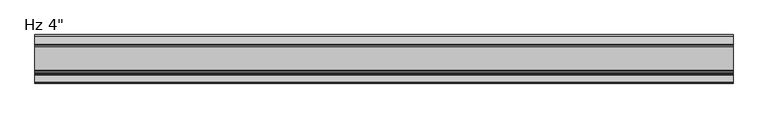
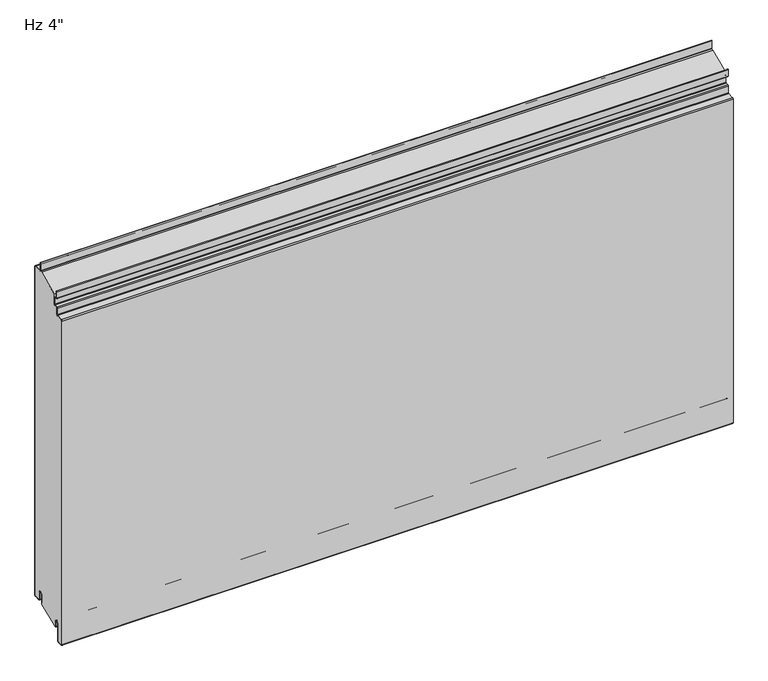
"""IFC4 building model written with IfcOpenShell, lengths in millimetres: plate geometry."""

from ifc_helpers import new_model, si_unit, point, frame, frame_2d, origin, place, context, project, spatial, polyline, circle_curve, ellipse_curve, trimmed, segment, composite_curve, outline, extrude, source, transform, mapped, element, save
from ifc_brep_helpers import plane_surface, cylinder_surface, revolved_surface, extruded_surface, advanced_brep


def plate_a30c68ed(model_context):
    return source(origin(), model_context, "Body", "SolidModel", [
        extrude(outline(composite_curve([segment(trimmed(circle_curve(frame_2d((-21.43125, 19.25)), 4.96875), [point((-16.4625, 19.25))], [point((-26.4, 19.25))], True, "CARTESIAN"), True, "CONTINUOUS"), segment(polyline([(-26.4, 19.25), (-26.4, -2.9323422), (-74.6157227, -22.81875), (-76.2, -22.81875), (-76.2, -13.3080174), (-76.99375, -13.3080174), (-76.7875, -11.7205174)]), True, "CONTINUOUS"), segment(trimmed(circle_curve(frame_2d((-81.75625, -11.7205174)), 4.96875), [point((-76.7875, -11.7205174))], [point((-86.725, -11.7205174))], True, "CARTESIAN"), True, "CONTINUOUS"), segment(polyline([(-86.725, -11.7205174), (-86.725, -49.9038221)]), True, "CONTINUOUS"), segment(trimmed(circle_curve(frame_2d((-88.10625, -49.9038221)), 1.38125), [point((-86.725, -49.9038221))], [point((-88.033961, -51.2831791))], False, "CARTESIAN"), True, "CONTINUOUS"), segment(polyline([(-88.033961, -51.2831791), (-99.146461, -51.8655606)]), True, "CONTINUOUS"), segment(trimmed(circle_curve(frame_2d((-99.21875, -50.4862035)), 1.38125), [point((-99.146461, -51.8655606))], [point((-100.6, -50.4862035))], False, "CARTESIAN"), True, "CONTINUOUS"), segment(polyline([(-100.6, -50.4862035), (-100.6, 694.0447607)]), True, "CONTINUOUS"), segment(trimmed(circle_curve(frame_2d((-99.21875, 694.0447607)), 1.38125), [point((-100.6, 694.0447607))], [point((-99.291039, 695.4241177))], False, "CARTESIAN"), True, "CONTINUOUS"), segment(polyline([(-99.291039, 695.4241177), (-85.5895807, 696.1421807)]), True, "CONTINUOUS"), segment(trimmed(circle_curve(frame_2d((-85.725, 698.7261347)), 2.5875), [point((-85.5895807, 696.1421807))], [point((-83.1375, 698.7261347))], True, "CARTESIAN"), True, "CONTINUOUS"), segment(polyline([(-83.1375, 698.7261347), (-83.1375, 712.8824411)]), True, "CONTINUOUS"), segment(trimmed(circle_curve(frame_2d((-81.75625, 712.8824411)), 1.38125), [point((-83.1375, 712.8824411))], [point((-81.828539, 714.2617981))], False, "CARTESIAN"), True, "CONTINUOUS"), segment(polyline([(-81.828539, 714.2617981), (-76.0645807, 714.5638744)]), True, "CONTINUOUS"), segment(trimmed(circle_curve(frame_2d((-76.2, 717.1478283)), 2.5875), [point((-76.0645807, 714.5638744))], [point((-73.6125, 717.1478283))], True, "CARTESIAN"), True, "CONTINUOUS"), segment(polyline([(-73.6125, 717.1478283), (-73.6125, 739.5892934), (-24.9057308, 760.40625), (-2.38125, 760.40625)]), True, "CONTINUOUS"), segment(trimmed(circle_curve(frame_2d((-2.38125, 759.025)), 1.38125), [point((-2.38125, 760.40625))], [point((-1.0, 759.025))], False, "CARTESIAN"), True, "CONTINUOUS"), segment(polyline([(-1.0, 759.025), (-1.0, 3.375)]), True, "CONTINUOUS"), segment(trimmed(circle_curve(frame_2d((-2.38125, 3.375)), 1.38125), [point((-1.0, 3.375))], [point((-2.38125, 1.99375))], False, "CARTESIAN"), True, "CONTINUOUS"), segment(polyline([(-2.38125, 1.99375), (-15.08125, 1.99375)]), True, "CONTINUOUS"), segment(trimmed(circle_curve(frame_2d((-15.08125, 3.375)), 1.38125), [point((-15.08125, 1.99375))], [point((-16.4625, 3.375))], False, "CARTESIAN"), True, "CONTINUOUS"), segment(polyline([(-16.4625, 3.375), (-16.4625, 19.25)]), True, "CONTINUOUS")], self_intersect=False)), frame((-730.0, 0.0, 0.0), z_axis=(1.0, 0.0, 0.0), x_axis=(0.0, 1.0, 0.0)), (0.0, 0.0, 1.0), 1460.0),
        extrude(outline(composite_curve([segment(polyline([(-25.4, 0.99375), (-26.4, 0.99375), (-26.4, 19.25)]), True, "CONTINUOUS"), segment(trimmed(circle_curve(frame_2d((-21.43125, 19.25)), 4.96875), [point((-26.4, 19.25))], [point((-16.4625, 19.25))], False, "CARTESIAN"), True, "CONTINUOUS"), segment(polyline([(-16.4625, 19.25), (-16.4625, 3.375)]), True, "CONTINUOUS"), segment(trimmed(circle_curve(frame_2d((-15.08125, 3.375)), 1.38125), [point((-16.4625, 3.375))], [point((-15.08125, 1.99375))], True, "CARTESIAN"), True, "CONTINUOUS"), segment(polyline([(-15.08125, 1.99375), (-2.38125, 1.99375)]), True, "CONTINUOUS"), segment(trimmed(circle_curve(frame_2d((-2.38125, 3.375)), 1.38125), [point((-2.38125, 1.99375))], [point((-1.0, 3.375))], True, "CARTESIAN"), True, "CONTINUOUS"), segment(polyline([(-1.0, 3.375), (-1.0, 759.025)]), True, "CONTINUOUS"), segment(trimmed(circle_curve(frame_2d((-2.38125, 759.025)), 1.38125), [point((-1.0, 759.025))], [point((-2.38125, 760.40625))], True, "CARTESIAN"), True, "CONTINUOUS"), segment(polyline([(-2.38125, 760.40625), (-19.446875, 760.40625)]), True, "CONTINUOUS"), segment(trimmed(circle_curve(frame_2d((-19.446875, 762.99375)), 2.5875), [point((-19.446875, 760.40625))], [point((-22.034375, 762.99375))], False, "CARTESIAN"), True, "CONTINUOUS"), segment(polyline([(-22.034375, 762.99375), (-22.034375, 780.45625), (-21.034375, 780.45625), (-21.034375, 762.99375)]), True, "CONTINUOUS"), segment(trimmed(circle_curve(frame_2d((-19.446875, 762.99375)), 1.5875), [point((-21.034375, 762.99375))], [point((-19.446875, 761.40625))], True, "CARTESIAN"), True, "CONTINUOUS"), segment(polyline([(-19.446875, 761.40625), (-2.38125, 761.40625)]), True, "CONTINUOUS"), segment(trimmed(circle_curve(frame_2d((-2.38125, 759.025)), 2.38125), [point((-2.38125, 761.40625))], [point((0.0, 759.025))], False, "CARTESIAN"), True, "CONTINUOUS"), segment(polyline([(0.0, 759.025), (0.0, 3.375)]), True, "CONTINUOUS"), segment(trimmed(circle_curve(frame_2d((-2.38125, 3.375)), 2.38125), [point((0.0, 3.375))], [point((-2.38125, 0.99375))], False, "CARTESIAN"), True, "CONTINUOUS"), segment(polyline([(-2.38125, 0.99375), (-15.08125, 0.99375)]), True, "CONTINUOUS"), segment(trimmed(circle_curve(frame_2d((-15.08125, 3.375)), 2.38125), [point((-15.08125, 0.99375))], [point((-17.4625, 3.375))], False, "CARTESIAN"), True, "CONTINUOUS"), segment(polyline([(-17.4625, 3.375), (-17.4625, 19.25)]), True, "CONTINUOUS"), segment(trimmed(circle_curve(frame_2d((-21.43125, 19.25)), 3.96875), [point((-17.4625, 19.25))], [point((-25.4, 19.25))], True, "CARTESIAN"), True, "CONTINUOUS"), segment(polyline([(-25.4, 19.25), (-25.4, 0.99375)]), True, "CONTINUOUS")], self_intersect=False)), frame((-730.0, 0.0, 0.0), z_axis=(1.0, 0.0, 0.0), x_axis=(0.0, 1.0, 0.0)), (0.0, 0.0, 1.0), 1460.0),
        advanced_brep(
        [(-730.0, -76.2, -23.0314549), (-730.0, -77.7875, -23.0314549), (-730.0, -77.7875, -11.7205174), (-730.0, -85.725, -11.7205174), (-730.0, -85.725, -49.9038221), (-730.0, -87.981625, -52.2818086), (-730.0, -99.094125, -52.8641901), (-730.0, -101.6, -50.4862035), (-730.0, -101.6, 694.0447607), (-730.0, -99.343375, 696.4227473), (-730.0, -85.6419167, 697.1408103), (-730.0, -84.1375, 698.7261347), (-730.0, -84.1375, 712.8824411), (-730.0, -81.880875, 715.2604276), (-730.0, -76.1169167, 715.5625039), (-730.0, -74.6125, 717.1478283), (-730.0, -74.6125, 732.0232326), (-730.0, -76.2, 733.6107326), (-730.0, -80.3671875, 733.6107326), (-730.0, -82.7484375, 735.9919826), (-730.0, -82.7484375, 750.4836032), (-730.0, -80.9546875, 750.4836032), (-730.0, -80.9546875, 740.7544826), (-730.0, -81.7484375, 740.7544826), (-730.0, -81.7484375, 735.9919826), (-730.0, -80.3671875, 734.6107326), (-730.0, -76.2, 734.6107326), (-730.0, -73.6125, 732.0232326), (-730.0, -73.6125, 717.1478283), (-730.0, -76.0645807, 714.5638744), (-730.0, -81.828539, 714.2617981), (-730.0, -83.1375, 712.8824411), (-730.0, -83.1375, 698.7261347), (-730.0, -85.5895807, 696.1421807), (-730.0, -99.291039, 695.4241177), (-730.0, -100.6, 694.0447607), (-730.0, -100.6, -50.4862035), (-730.0, -99.146461, -51.8655606), (-730.0, -88.033961, -51.2831791), (-730.0, -86.725, -49.9038221), (-730.0, -86.725, -11.7205174), (-730.0, -76.7875, -11.7205174), (-730.0, -76.99375, -13.3080174), (-730.0, -76.2, -13.3080174), (730.0, -76.2, -23.0314549), (730.0, -76.2, -13.3080174), (730.0, -76.99375, -13.3080174), (730.0, -76.7875, -11.7205174), (730.0, -86.725, -11.7205174), (730.0, -86.725, -49.9038221), (730.0, -88.033961, -51.2831791), (730.0, -99.146461, -51.8655606), (730.0, -100.6, -50.4862035), (730.0, -100.6, 694.0447607), (730.0, -99.291039, 695.4241177), (730.0, -85.5895807, 696.1421807), (730.0, -83.1375, 698.7261347), (730.0, -83.1375, 712.8824411), (730.0, -81.828539, 714.2617981), (730.0, -76.0645807, 714.5638744), (730.0, -73.6125, 717.1478283), (730.0, -73.6125, 732.0232326), (730.0, -76.2, 734.6107326), (730.0, -80.3671875, 734.6107326), (730.0, -81.7484375, 735.9919826), (730.0, -81.7484375, 740.7544826), (730.0, -80.9546875, 740.7544826), (730.0, -80.9546875, 750.4836032), (730.0, -82.7484375, 750.4836032), (730.0, -82.7484375, 735.9919826), (730.0, -80.3671875, 733.6107326), (730.0, -76.2, 733.6107326), (730.0, -74.6125, 732.0232326), (730.0, -74.6125, 717.1478283), (730.0, -76.1169167, 715.5625039), (730.0, -81.880875, 715.2604276), (730.0, -84.1375, 712.8824411), (730.0, -84.1375, 698.7261347), (730.0, -85.6419167, 697.1408103), (730.0, -99.343375, 696.4227473), (730.0, -101.6, 694.0447607), (730.0, -101.6, -50.4862035), (730.0, -99.094125, -52.8641901), (730.0, -87.981625, -52.2818086), (730.0, -85.725, -49.9038221), (730.0, -85.725, -11.7205174), (730.0, -77.7875, -11.7205174), (730.0, -77.7875, -23.0314549)],
        [
            (0, 1, circle_curve(frame((-730.0, -76.99375, -23.0314549), z_axis=(-1.0, 0.0, 0.0), x_axis=(0.0, 0.0, -1.0)), 0.79375)),
            (1, 2),
            (2, 3, circle_curve(frame((-730.0, -81.75625, -11.7205174), z_axis=(1.0, 0.0, 0.0), x_axis=(0.0, 0.0, -1.0)), 3.96875)),
            (3, 4),
            (4, 5, circle_curve(frame((-730.0, -88.10625, -49.9038221), z_axis=(-1.0, 0.0, 0.0), x_axis=(0.0, 0.0, -1.0)), 2.38125)),
            (5, 6),
            (6, 7, circle_curve(frame((-730.0, -99.21875, -50.4862035), z_axis=(-1.0, 0.0, 0.0), x_axis=(0.0, 0.0, -1.0)), 2.38125)),
            (7, 8),
            (8, 9, circle_curve(frame((-730.0, -99.21875, 694.0447607), z_axis=(-1.0, 0.0, 0.0), x_axis=(0.0, 0.0, -1.0)), 2.38125)),
            (9, 10),
            (10, 11, circle_curve(frame((-730.0, -85.725, 698.7261347), z_axis=(1.0, 0.0, 0.0), x_axis=(0.0, 0.0, -1.0)), 1.5875)),
            (11, 12),
            (12, 13, circle_curve(frame((-730.0, -81.75625, 712.8824411), z_axis=(-1.0, 0.0, 0.0), x_axis=(0.0, 0.0, -1.0)), 2.38125)),
            (13, 14),
            (14, 15, circle_curve(frame((-730.0, -76.2, 717.1478283), z_axis=(1.0, 0.0, 0.0), x_axis=(0.0, 0.0, -1.0)), 1.5875)),
            (15, 16),
            (16, 17, circle_curve(frame((-730.0, -76.2, 732.0232326), z_axis=(1.0, 0.0, 0.0), x_axis=(0.0, 0.0, -1.0)), 1.5875)),
            (17, 18),
            (18, 19, circle_curve(frame((-730.0, -80.3671875, 735.9919826), z_axis=(-1.0, 0.0, 0.0), x_axis=(0.0, 0.0, -1.0)), 2.38125)),
            (19, 20),
            (20, 21, ellipse_curve(frame((-730.0, -81.8515625, 750.4836032), z_axis=(-1.0, 0.0, 0.0), x_axis=(0.0, 1.0, 0.0)), 0.896875, 0.7852275)),
            (21, 22),
            (22, 23),
            (23, 24),
            (24, 25, circle_curve(frame((-730.0, -80.3671875, 735.9919826), z_axis=(1.0, 0.0, 0.0), x_axis=(0.0, 0.0, -1.0)), 1.38125)),
            (25, 26),
            (26, 27, circle_curve(frame((-730.0, -76.2, 732.0232326), z_axis=(-1.0, 0.0, 0.0), x_axis=(0.0, 0.0, -1.0)), 2.5875)),
            (27, 28),
            (28, 29, circle_curve(frame((-730.0, -76.2, 717.1478283), z_axis=(-1.0, 0.0, 0.0), x_axis=(0.0, 0.0, -1.0)), 2.5875)),
            (29, 30),
            (30, 31, circle_curve(frame((-730.0, -81.75625, 712.8824411), z_axis=(1.0, 0.0, 0.0), x_axis=(0.0, 0.0, -1.0)), 1.38125)),
            (31, 32),
            (32, 33, circle_curve(frame((-730.0, -85.725, 698.7261347), z_axis=(-1.0, 0.0, 0.0), x_axis=(0.0, 0.0, -1.0)), 2.5875)),
            (33, 34),
            (34, 35, circle_curve(frame((-730.0, -99.21875, 694.0447607), z_axis=(1.0, 0.0, 0.0), x_axis=(0.0, 0.0, -1.0)), 1.38125)),
            (35, 36),
            (36, 37, circle_curve(frame((-730.0, -99.21875, -50.4862035), z_axis=(1.0, 0.0, 0.0), x_axis=(0.0, 0.0, -1.0)), 1.38125)),
            (37, 38),
            (38, 39, circle_curve(frame((-730.0, -88.10625, -49.9038221), z_axis=(1.0, 0.0, 0.0), x_axis=(0.0, 0.0, -1.0)), 1.38125)),
            (39, 40),
            (40, 41, circle_curve(frame((-730.0, -81.75625, -11.7205174), z_axis=(-1.0, 0.0, 0.0), x_axis=(0.0, 0.0, -1.0)), 4.96875)),
            (41, 42),
            (42, 43),
            (43, 0),
            (44, 45),
            (45, 46),
            (46, 47),
            (47, 48, circle_curve(frame((730.0, -81.75625, -11.7205174), z_axis=(1.0, 0.0, 0.0), x_axis=(0.0, 0.0, -1.0)), 4.96875)),
            (48, 49),
            (49, 50, circle_curve(frame((730.0, -88.10625, -49.9038221), z_axis=(-1.0, 0.0, 0.0), x_axis=(0.0, 0.0, -1.0)), 1.38125)),
            (50, 51),
            (51, 52, circle_curve(frame((730.0, -99.21875, -50.4862035), z_axis=(-1.0, 0.0, 0.0), x_axis=(0.0, 0.0, -1.0)), 1.38125)),
            (52, 53),
            (53, 54, circle_curve(frame((730.0, -99.21875, 694.0447607), z_axis=(-1.0, 0.0, 0.0), x_axis=(0.0, 0.0, -1.0)), 1.38125)),
            (54, 55),
            (55, 56, circle_curve(frame((730.0, -85.725, 698.7261347), z_axis=(1.0, 0.0, 0.0), x_axis=(0.0, 0.0, -1.0)), 2.5875)),
            (56, 57),
            (57, 58, circle_curve(frame((730.0, -81.75625, 712.8824411), z_axis=(-1.0, 0.0, 0.0), x_axis=(0.0, 0.0, -1.0)), 1.38125)),
            (58, 59),
            (59, 60, circle_curve(frame((730.0, -76.2, 717.1478283), z_axis=(1.0, 0.0, 0.0), x_axis=(0.0, 0.0, -1.0)), 2.5875)),
            (60, 61),
            (61, 62, circle_curve(frame((730.0, -76.2, 732.0232326), z_axis=(1.0, 0.0, 0.0), x_axis=(0.0, 0.0, -1.0)), 2.5875)),
            (62, 63),
            (63, 64, circle_curve(frame((730.0, -80.3671875, 735.9919826), z_axis=(-1.0, 0.0, 0.0), x_axis=(0.0, 0.0, -1.0)), 1.38125)),
            (64, 65),
            (65, 66),
            (66, 67),
            (67, 68, ellipse_curve(frame((730.0, -81.8515625, 750.4836032), z_axis=(1.0, 0.0, 0.0), x_axis=(0.0, 1.0, 0.0)), 0.896875, 0.7852275)),
            (68, 69),
            (69, 70, circle_curve(frame((730.0, -80.3671875, 735.9919826), z_axis=(1.0, 0.0, 0.0), x_axis=(0.0, 0.0, -1.0)), 2.38125)),
            (70, 71),
            (71, 72, circle_curve(frame((730.0, -76.2, 732.0232326), z_axis=(-1.0, 0.0, 0.0), x_axis=(0.0, 0.0, -1.0)), 1.5875)),
            (72, 73),
            (73, 74, circle_curve(frame((730.0, -76.2, 717.1478283), z_axis=(-1.0, 0.0, 0.0), x_axis=(0.0, 0.0, -1.0)), 1.5875)),
            (74, 75),
            (75, 76, circle_curve(frame((730.0, -81.75625, 712.8824411), z_axis=(1.0, 0.0, 0.0), x_axis=(0.0, 0.0, -1.0)), 2.38125)),
            (76, 77),
            (77, 78, circle_curve(frame((730.0, -85.725, 698.7261347), z_axis=(-1.0, 0.0, 0.0), x_axis=(0.0, 0.0, -1.0)), 1.5875)),
            (78, 79),
            (79, 80, circle_curve(frame((730.0, -99.21875, 694.0447607), z_axis=(1.0, 0.0, 0.0), x_axis=(0.0, 0.0, -1.0)), 2.38125)),
            (80, 81),
            (81, 82, circle_curve(frame((730.0, -99.21875, -50.4862035), z_axis=(1.0, 0.0, 0.0), x_axis=(0.0, 0.0, -1.0)), 2.38125)),
            (82, 83),
            (83, 84, circle_curve(frame((730.0, -88.10625, -49.9038221), z_axis=(1.0, 0.0, 0.0), x_axis=(0.0, 0.0, -1.0)), 2.38125)),
            (84, 85),
            (85, 86, circle_curve(frame((730.0, -81.75625, -11.7205174), z_axis=(-1.0, 0.0, 0.0), x_axis=(0.0, 0.0, -1.0)), 3.96875)),
            (86, 87),
            (87, 44, circle_curve(frame((730.0, -76.99375, -23.0314549), z_axis=(1.0, 0.0, 0.0), x_axis=(0.0, 0.0, -1.0)), 0.79375)),
            (36, 52),
            (51, 37),
            (50, 38),
            (49, 39),
            (48, 40),
            (47, 41),
            (42, 46),
            (45, 43),
            (22, 66),
            (65, 23),
            (21, 67),
            (20, 68),
            (34, 54),
            (53, 35),
            (32, 56),
            (55, 33),
            (30, 58),
            (57, 31),
            (28, 60),
            (59, 29),
            (24, 64),
            (63, 25),
            (26, 62),
            (61, 27),
            (19, 69),
            (17, 71),
            (70, 18),
            (15, 73),
            (72, 16),
            (13, 75),
            (74, 14),
            (11, 77),
            (76, 12),
            (9, 79),
            (78, 10),
            (7, 81),
            (80, 8),
            (5, 83),
            (82, 6),
            (3, 85),
            (84, 4),
            (1, 87),
            (86, 2),
            (44, 0),
        ],
        [
            plane_surface(frame((-730.0, -101.6, 381.2), z_axis=(-1.0, 0.0, 0.0), x_axis=(0.0, -1.0, 0.0))),
            plane_surface(frame((730.0, -101.6, 381.2), z_axis=(1.0, 0.0, 0.0), x_axis=(0.0, -1.0, 0.0))),
            revolved_surface(polyline([(730.0, -99.21875, -51.8674535), (-730.0, -99.21875, -51.8674535)]), (-730.0, -99.21875, -50.4862035), (1.0, 0.0, 0.0)),
            plane_surface(frame((-730.0, -88.033961, -51.2831791), z_axis=(0.0, -0.05233595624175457, 0.9986295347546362), x_axis=(1.0, 0.0, 0.0))),
            revolved_surface(polyline([(730.0, -88.10625, -51.2850721), (-730.0, -88.10625, -51.2850721)]), (-730.0, -88.10625, -49.9038221), (1.0, 0.0, 0.0)),
            plane_surface(frame((-730.0, -86.725, -11.7205174), z_axis=(0.0, -1.0, 0.0), x_axis=(1.0, 0.0, 0.0))),
            cylinder_surface(frame((-730.0, -81.75625, -11.7205174), z_axis=(-1.0, 0.0, 0.0), x_axis=(0.0, 0.0, -1.0)), 4.96875),
            plane_surface(frame((-730.0, -76.2, -13.3080174), z_axis=(0.0, 0.0, 1.0), x_axis=(1.0, 0.0, 0.0))),
            plane_surface(frame((-730.0, -76.99375, -13.3080174), z_axis=(0.0, 0.9916655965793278, -0.12883844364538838), x_axis=(1.0, 0.0, 0.0))),
            plane_surface(frame((-730.0, -81.7484375, 740.7544826), z_axis=(0.0, 0.0, -1.0), x_axis=(1.0, 0.0, 0.0))),
            plane_surface(frame((-730.0, -80.9546875, 740.7544826), z_axis=(0.0, 1.0, 0.0), x_axis=(1.0, 0.0, 0.0))),
            extruded_surface(trimmed(ellipse_curve(frame((-730.0, -81.8515625, 750.4836032), z_axis=(1.0, 0.0, 0.0), x_axis=(0.0, 1.0, 0.0)), 0.896875, 0.7852275), [point((-730.0, -80.9546875, 750.4836032))], [point((-730.0, -82.7484375, 750.4836032))], True, "CARTESIAN"), (1460.0, 0.0, 0.0), 1460.0),
            revolved_surface(polyline([(730.0, -99.21875, 692.6635107), (-730.0, -99.21875, 692.6635107)]), (-730.0, -99.21875, 694.0447607), (1.0, 0.0, 0.0)),
            cylinder_surface(frame((-730.0, -85.725, 698.7261347), z_axis=(-1.0, 0.0, 0.0), x_axis=(0.0, 0.0, -1.0)), 2.5875),
            plane_surface(frame((-730.0, -99.291039, 695.4241177), z_axis=(0.0, 0.05233595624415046, -0.9986295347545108), x_axis=(1.0, 0.0, 0.0))),
            plane_surface(frame((-730.0, -100.6, -50.4862035), z_axis=(0.0, 1.0, 0.0), x_axis=(1.0, 0.0, 0.0))),
            revolved_surface(polyline([(730.0, -81.75625, 711.5011911), (-730.0, -81.75625, 711.5011911)]), (-730.0, -81.75625, 712.8824411), (1.0, 0.0, 0.0)),
            cylinder_surface(frame((-730.0, -76.2, 717.1478283), z_axis=(-1.0, 0.0, 0.0), x_axis=(0.0, 0.0, -1.0)), 2.5875),
            plane_surface(frame((-730.0, -81.828539, 714.2617981), z_axis=(0.0, 0.052335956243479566, -0.9986295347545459), x_axis=(1.0, 0.0, 0.0))),
            plane_surface(frame((-730.0, -83.1375, 698.7261347), z_axis=(0.0, 1.0, 0.0), x_axis=(1.0, 0.0, 0.0))),
            revolved_surface(polyline([(730.0, -80.3671875, 734.6107326), (-730.0, -80.3671875, 734.6107326)]), (-730.0, -80.3671875, 735.9919826), (1.0, 0.0, 0.0)),
            cylinder_surface(frame((-730.0, -76.2, 732.0232326), z_axis=(-1.0, 0.0, 0.0), x_axis=(0.0, 0.0, -1.0)), 2.5875),
            plane_surface(frame((-730.0, -76.2, 734.6107326), z_axis=(0.0, 0.0, 1.0), x_axis=(1.0, 0.0, 0.0))),
            plane_surface(frame((-730.0, -81.7484375, 735.9919826), z_axis=(0.0, 1.0, 0.0), x_axis=(1.0, 0.0, 0.0))),
            plane_surface(frame((-730.0, -82.7484375, 750.4836032), z_axis=(0.0, -1.0, 0.0), x_axis=(1.0, 0.0, 0.0))),
            plane_surface(frame((-730.0, -80.3671875, 733.6107326), z_axis=(0.0, 0.0, -1.0), x_axis=(1.0, 0.0, 0.0))),
            cylinder_surface(frame((-730.0, -80.3671875, 735.9919826), z_axis=(-1.0, 0.0, 0.0), x_axis=(0.0, 0.0, -1.0)), 2.38125),
            plane_surface(frame((-730.0, -73.6125, 717.1478283), z_axis=(0.0, 1.0, 0.0), x_axis=(1.0, 0.0, 0.0))),
            plane_surface(frame((-730.0, -74.6125, 732.0232326), z_axis=(0.0, -1.0, 0.0), x_axis=(1.0, 0.0, 0.0))),
            plane_surface(frame((-730.0, -76.1169167, 715.5625039), z_axis=(0.0, -0.05233595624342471, 0.9986295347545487), x_axis=(1.0, 0.0, 0.0))),
            revolved_surface(polyline([(730.0, -76.2, 715.5603283), (-730.0, -76.2, 715.5603283)]), (-730.0, -76.2, 717.1478283), (1.0, 0.0, 0.0)),
            revolved_surface(polyline([(730.0, -76.2, 730.4357326), (-730.0, -76.2, 730.4357326)]), (-730.0, -76.2, 732.0232326), (1.0, 0.0, 0.0)),
            plane_surface(frame((-730.0, -84.1375, 712.8824411), z_axis=(0.0, -1.0, 0.0), x_axis=(1.0, 0.0, 0.0))),
            plane_surface(frame((-730.0, -85.6419167, 697.1408103), z_axis=(0.0, -0.0523359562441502, 0.9986295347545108), x_axis=(1.0, 0.0, 0.0))),
            revolved_surface(polyline([(730.0, -85.725, 697.1386347), (-730.0, -85.725, 697.1386347)]), (-730.0, -85.725, 698.7261347), (1.0, 0.0, 0.0)),
            cylinder_surface(frame((-730.0, -81.75625, 712.8824411), z_axis=(-1.0, 0.0, 0.0), x_axis=(0.0, 0.0, -1.0)), 2.38125),
            plane_surface(frame((-730.0, -101.6, 694.0447607), z_axis=(0.0, -1.0, 0.0), x_axis=(1.0, 0.0, 0.0))),
            plane_surface(frame((-730.0, -99.094125, -52.8641901), z_axis=(0.0, 0.05233595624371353, -0.9986295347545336), x_axis=(1.0, 0.0, 0.0))),
            cylinder_surface(frame((-730.0, -99.21875, -50.4862035), z_axis=(-1.0, 0.0, 0.0), x_axis=(0.0, 0.0, -1.0)), 2.38125),
            cylinder_surface(frame((-730.0, -99.21875, 694.0447607), z_axis=(-1.0, 0.0, 0.0), x_axis=(0.0, 0.0, -1.0)), 2.38125),
            plane_surface(frame((-730.0, -85.725, -49.9038221), z_axis=(0.0, 1.0, 0.0), x_axis=(1.0, 0.0, 0.0))),
            plane_surface(frame((-730.0, -77.7875, -11.7205174), z_axis=(0.0, -1.0, 0.0), x_axis=(1.0, 0.0, 0.0))),
            revolved_surface(polyline([(730.0, -81.75625, -15.6892674), (-730.0, -81.75625, -15.6892674)]), (-730.0, -81.75625, -11.7205174), (1.0, 0.0, 0.0)),
            cylinder_surface(frame((-730.0, -88.10625, -49.9038221), z_axis=(-1.0, 0.0, 0.0), x_axis=(0.0, 0.0, -1.0)), 2.38125),
            plane_surface(frame((-730.0, -76.2, -23.0314549), z_axis=(0.0, 1.0, 0.0), x_axis=(1.0, 0.0, 0.0))),
            cylinder_surface(frame((-730.0, -76.99375, -23.0314549), z_axis=(-1.0, 0.0, 0.0), x_axis=(0.0, 0.0, -1.0)), 0.79375),
        ],
        [
            (0, [[1, 2, 3, 4, 5, 6, 7, 8, 9, 10, 11, 12, 13, 14, 15, 16, 17, 18, 19, 20, 21, 22, 23, 24, 25, 26, 27, 28, 29, 30, 31, 32, 33, 34, 35, 36, 37, 38, 39, 40, 41, 42, 43, 44]]),
            (1, [[45, 46, 47, 48, 49, 50, 51, 52, 53, 54, 55, 56, 57, 58, 59, 60, 61, 62, 63, 64, 65, 66, 67, 68, 69, 70, 71, 72, 73, 74, 75, 76, 77, 78, 79, 80, 81, 82, 83, 84, 85, 86, 87, 88]]),
            (2, [[89, -52, 90, -37]]),
            (3, [[-90, -51, 91, -38]]),
            (4, [[-91, -50, 92, -39]]),
            (5, [[-92, -49, 93, -40]]),
            (6, [[-93, -48, 94, -41]]),
            (7, [[95, -46, 96, -43]]),
            (8, [[-94, -47, -95, -42]]),
            (9, [[97, -66, 98, -23]]),
            (10, [[99, -67, -97, -22]]),
            (11, [[100, -68, -99, -21]]),
            (12, [[101, -54, 102, -35]]),
            (13, [[103, -56, 104, -33]]),
            (14, [[-104, -55, -101, -34]]),
            (15, [[-102, -53, -89, -36]]),
            (16, [[105, -58, 106, -31]]),
            (17, [[107, -60, 108, -29]]),
            (18, [[-108, -59, -105, -30]]),
            (19, [[-106, -57, -103, -32]]),
            (20, [[109, -64, 110, -25]]),
            (21, [[111, -62, 112, -27]]),
            (22, [[-110, -63, -111, -26]]),
            (23, [[-98, -65, -109, -24]]),
            (24, [[113, -69, -100, -20]]),
            (25, [[114, -71, 115, -18]]),
            (26, [[-115, -70, -113, -19]]),
            (27, [[-112, -61, -107, -28]]),
            (28, [[116, -73, 117, -16]]),
            (29, [[118, -75, 119, -14]]),
            (30, [[-119, -74, -116, -15]]),
            (31, [[-117, -72, -114, -17]]),
            (32, [[120, -77, 121, -12]]),
            (33, [[122, -79, 123, -10]]),
            (34, [[-123, -78, -120, -11]]),
            (35, [[-121, -76, -118, -13]]),
            (36, [[124, -81, 125, -8]]),
            (37, [[126, -83, 127, -6]]),
            (38, [[-127, -82, -124, -7]]),
            (39, [[-125, -80, -122, -9]]),
            (40, [[128, -85, 129, -4]]),
            (41, [[130, -87, 131, -2]]),
            (42, [[-131, -86, -128, -3]]),
            (43, [[-129, -84, -126, -5]]),
            (44, [[-96, -45, 132, -44]]),
            (45, [[-132, -88, -130, -1]]),
        ],
    ),
    ])


if __name__ == "__main__":
    model = new_model("IFC4")
    model_context = context("Model", 3, world=origin())
    ifc_project = project(units=[si_unit("LENGTHUNIT", "METRE", prefix="MILLI")], contexts=[model_context])
    site = spatial("IfcSite", under=ifc_project)
    building = spatial("IfcBuilding", under=site)
    placement = place(None, origin())
    plate_shape = plate_a30c68ed(model_context)
    element("IfcPlate", 1, ObjectType="KIP-30-DWHR-R19-CP-Hz-F : Hz 4\"", at=placement, inside=building, context=model_context, shape_type="MappedRepresentation", body=[
        mapped(plate_shape, transform((0.0, 0.0, 0.0), x_axis=(1.0, 0.0, 0.0), y_axis=(0.0, 1.0, 0.0), z_axis=(0.0, 0.0, 1.0))),
    ])
    save(model, "model.ifc")
